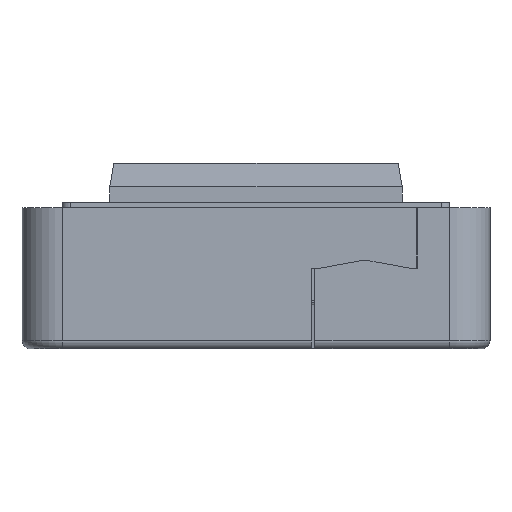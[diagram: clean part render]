
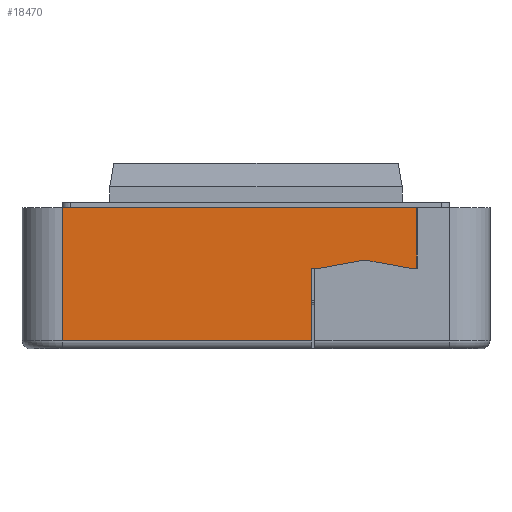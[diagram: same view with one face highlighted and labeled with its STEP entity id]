
A CAD part, left-side view. The second image highlights one B-rep face of the part: STEP entity #18470.
In plain terms, the highlighted planar face has unit normal (-1, 0, 0) as drawn and (1, 0, 0) by its records, which use the part's own axes.
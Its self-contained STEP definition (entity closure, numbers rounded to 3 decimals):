
#1934=FACE_OUTER_BOUND('',#3027,.T.);
#3027=EDGE_LOOP('',(#14446,#14447,#14448,#14449,#14450,#14451,#14452,#14453,
#14454));
#4608=LINE('',#29035,#6557);
#4614=LINE('',#29047,#6563);
#4617=LINE('',#29053,#6566);
#4618=LINE('',#29055,#6567);
#4619=LINE('',#29057,#6568);
#4620=LINE('',#29059,#6569);
#4621=LINE('',#29061,#6570);
#4622=LINE('',#29063,#6571);
#4623=LINE('',#29064,#6572);
#6557=VECTOR('',#22370,10.);
#6563=VECTOR('',#22378,10.);
#6566=VECTOR('',#22383,10.);
#6567=VECTOR('',#22384,10.);
#6568=VECTOR('',#22385,10.);
#6569=VECTOR('',#22386,10.);
#6570=VECTOR('',#22387,10.);
#6571=VECTOR('',#22388,10.);
#6572=VECTOR('',#22389,10.);
#8391=VERTEX_POINT('',#29033);
#8392=VERTEX_POINT('',#29034);
#8397=VERTEX_POINT('',#29046);
#8399=VERTEX_POINT('',#29052);
#8400=VERTEX_POINT('',#29054);
#8401=VERTEX_POINT('',#29056);
#8402=VERTEX_POINT('',#29058);
#8403=VERTEX_POINT('',#29060);
#8404=VERTEX_POINT('',#29062);
#10551=EDGE_CURVE('',#8391,#8392,#4608,.T.);
#10557=EDGE_CURVE('',#8397,#8391,#4614,.T.);
#10560=EDGE_CURVE('',#8399,#8392,#4617,.T.);
#10561=EDGE_CURVE('',#8400,#8399,#4618,.T.);
#10562=EDGE_CURVE('',#8401,#8400,#4619,.T.);
#10563=EDGE_CURVE('',#8401,#8402,#4620,.T.);
#10564=EDGE_CURVE('',#8402,#8403,#4621,.T.);
#10565=EDGE_CURVE('',#8403,#8404,#4622,.T.);
#10566=EDGE_CURVE('',#8404,#8397,#4623,.T.);
#14446=ORIENTED_EDGE('',*,*,#10551,.T.);
#14447=ORIENTED_EDGE('',*,*,#10560,.F.);
#14448=ORIENTED_EDGE('',*,*,#10561,.F.);
#14449=ORIENTED_EDGE('',*,*,#10562,.F.);
#14450=ORIENTED_EDGE('',*,*,#10563,.T.);
#14451=ORIENTED_EDGE('',*,*,#10564,.T.);
#14452=ORIENTED_EDGE('',*,*,#10565,.T.);
#14453=ORIENTED_EDGE('',*,*,#10566,.T.);
#14454=ORIENTED_EDGE('',*,*,#10557,.T.);
#17659=PLANE('',#19579);
#18470=ADVANCED_FACE('',(#1934),#17659,.T.);
#19579=AXIS2_PLACEMENT_3D('',#29051,#22381,#22382);
#22370=DIRECTION('',(0.,0.,1.));
#22378=DIRECTION('',(0.,1.,0.));
#22381=DIRECTION('center_axis',(1.,0.,0.));
#22382=DIRECTION('ref_axis',(0.,0.,-1.));
#22383=DIRECTION('',(0.,1.,0.));
#22384=DIRECTION('',(0.,0.,1.));
#22385=DIRECTION('',(0.,-1.,0.));
#22386=DIRECTION('',(0.,0.,1.));
#22387=DIRECTION('',(0.,1.,0.));
#22388=DIRECTION('',(0.,0.984,0.179));
#22389=DIRECTION('',(0.,0.984,-0.179));
#29033=CARTESIAN_POINT('',(74.,19.9,-8.));
#29034=CARTESIAN_POINT('',(74.,19.9,-0.5));
#29035=CARTESIAN_POINT('',(74.,19.9,-2.554));
#29046=CARTESIAN_POINT('',(74.,19.,-8.));
#29047=CARTESIAN_POINT('',(74.,-3.75,-8.));
#29051=CARTESIAN_POINT('Origin',(74.,-27.5,0.));
#29052=CARTESIAN_POINT('',(74.,-24.,-0.5));
#29053=CARTESIAN_POINT('',(74.,-29.,-0.5));
#29054=CARTESIAN_POINT('',(74.,-24.,-17.));
#29055=CARTESIAN_POINT('',(74.,-24.,-0.25));
#29056=CARTESIAN_POINT('',(74.,6.9,-17.));
#29057=CARTESIAN_POINT('',(74.,-21.22,-17.));
#29058=CARTESIAN_POINT('',(74.,6.9,-8.));
#29059=CARTESIAN_POINT('',(74.,6.9,-6.678));
#29060=CARTESIAN_POINT('',(74.,8.,-8.));
#29061=CARTESIAN_POINT('',(74.,-3.75,-8.));
#29062=CARTESIAN_POINT('',(74.,13.5,-7.));
#29063=CARTESIAN_POINT('',(74.,-5.728,-10.496));
#29064=CARTESIAN_POINT('',(74.,-4.21,-3.78));
